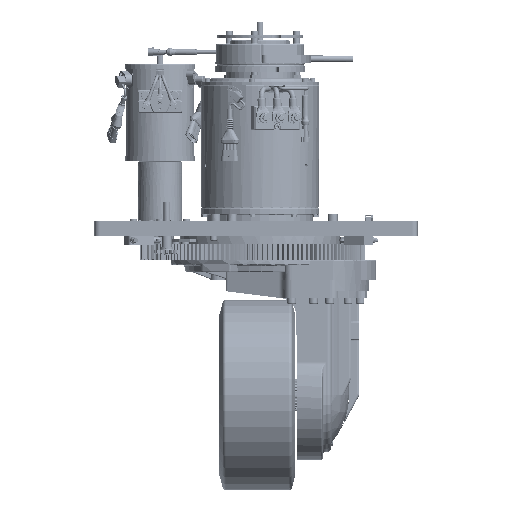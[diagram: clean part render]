
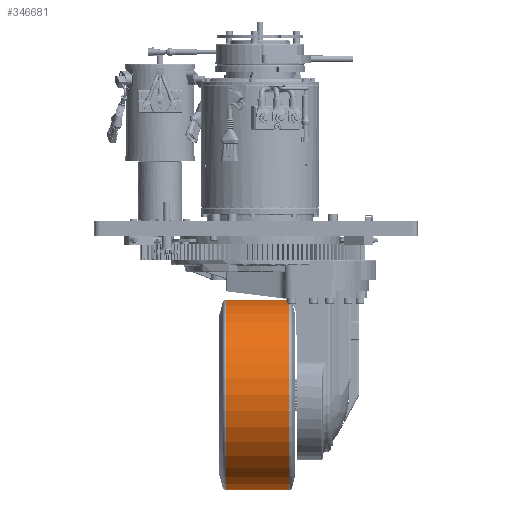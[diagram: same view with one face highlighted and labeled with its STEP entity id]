
A CAD part, front view. The second image highlights one B-rep face of the part: STEP entity #346681.
In plain terms, the highlighted cylindrical face has radius 175 mm (diameter 350 mm), a full revolution.
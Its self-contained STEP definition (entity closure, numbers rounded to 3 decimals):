
#20159=CIRCLE('',#378989,175.);
#20160=CIRCLE('',#378991,175.);
#23455=CYLINDRICAL_SURFACE('',#378990,175.);
#41584=FACE_OUTER_BOUND('',#61995,.T.);
#61995=EDGE_LOOP('',(#295997,#295998,#295999,#296000));
#93374=LINE('',#628683,#122456);
#122456=VECTOR('',#471956,175.);
#153709=VERTEX_POINT('',#628678);
#153710=VERTEX_POINT('',#628682);
#201228=EDGE_CURVE('',#153709,#153709,#20159,.T.);
#201229=EDGE_CURVE('',#153709,#153710,#93374,.T.);
#201230=EDGE_CURVE('',#153710,#153710,#20160,.T.);
#295997=ORIENTED_EDGE('',*,*,#201228,.F.);
#295998=ORIENTED_EDGE('',*,*,#201229,.T.);
#295999=ORIENTED_EDGE('',*,*,#201230,.T.);
#296000=ORIENTED_EDGE('',*,*,#201229,.F.);
#346681=ADVANCED_FACE('',(#41584),#23455,.T.);
#378989=AXIS2_PLACEMENT_3D('',#628680,#471952,#471953);
#378990=AXIS2_PLACEMENT_3D('',#628681,#471954,#471955);
#378991=AXIS2_PLACEMENT_3D('',#628684,#471957,#471958);
#471952=DIRECTION('center_axis',(1.,0.,0.));
#471953=DIRECTION('ref_axis',(0.,0.,
-1.));
#471954=DIRECTION('center_axis',(1.,0.,0.));
#471955=DIRECTION('ref_axis',(0.,0.,
-1.));
#471956=DIRECTION('',(-1.,0.,0.));
#471957=DIRECTION('center_axis',(1.,0.,0.));
#471958=DIRECTION('ref_axis',(0.,0.,
-1.));
#628678=CARTESIAN_POINT('',(40.477,0.,-78.));
#628680=CARTESIAN_POINT('Origin',(40.477,0.,
-253.));
#628681=CARTESIAN_POINT('Origin',(-17.55,0.,
-253.));
#628682=CARTESIAN_POINT('',(-75.577,0.,-78.));
#628683=CARTESIAN_POINT('',(-17.55,0.,-78.));
#628684=CARTESIAN_POINT('Origin',(-75.577,0.,
-253.));
